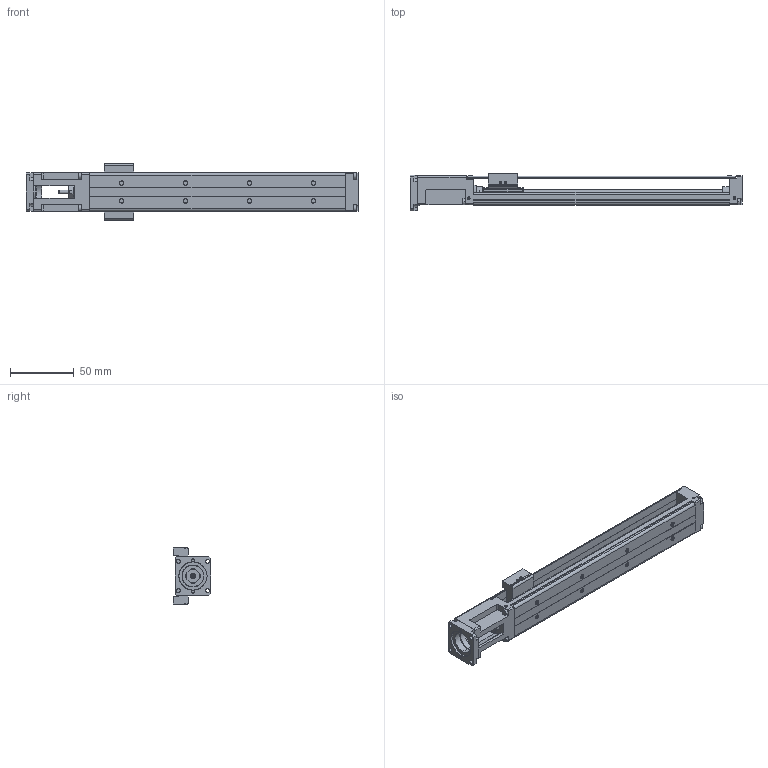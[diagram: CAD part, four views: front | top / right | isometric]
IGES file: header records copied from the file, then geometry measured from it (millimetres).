
Start section: SolidWorks IGES file using analytic representation for surfaces
Global section: file name: C:\Users\render\Documents\CAD Files\Integrated-Actuators\PA-Series\PA15\PA-15-200.IGS; native system: SolidWorks 2009; preprocessor: SolidWorks 2009; author: render; date: 100610.091234; units: millimetre
Bounding box: 260 x 29.5 x 44 mm (x, y, z)
Surface area: 55381.7 mm2 (no closed solid volume)
Topology: 0 solids, 0 shells, 671 faces, 8268 edges, 8224 vertices
Faces by surface type: revolution 352, bspline 319
